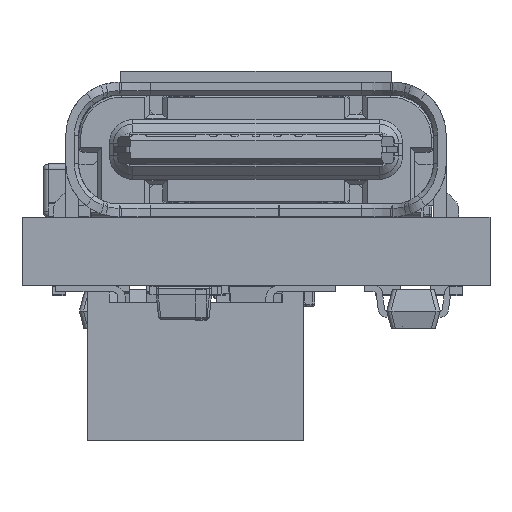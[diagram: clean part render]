
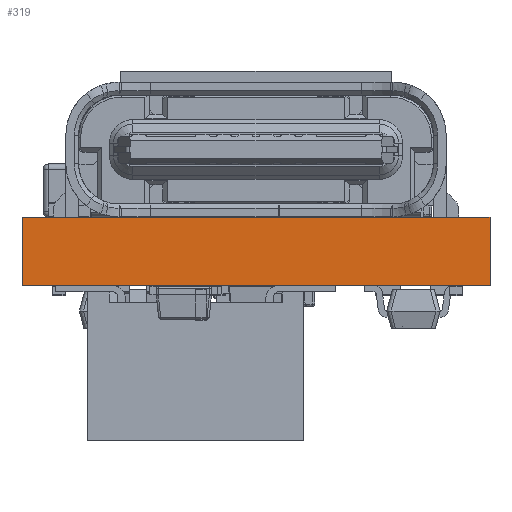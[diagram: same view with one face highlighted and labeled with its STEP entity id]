
A CAD part, left-side view. The second image highlights one B-rep face of the part: STEP entity #319.
In plain terms, the highlighted planar face has unit normal (-1, 0, 0).
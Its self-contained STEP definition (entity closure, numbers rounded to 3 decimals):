
#221 = EDGE_CURVE('',#222,#224,#226,.T.);
#222 = VERTEX_POINT('',#223);
#223 = CARTESIAN_POINT('',(0.,0.,0.));
#224 = VERTEX_POINT('',#225);
#225 = CARTESIAN_POINT('',(0.,0.,
    1.606));
#226 = LINE('',#227,#228);
#227 = CARTESIAN_POINT('',(0.,0.,0.));
#228 = VECTOR('',#229,1.);
#229 = DIRECTION('',(0.,0.,1.));
#294 = VERTEX_POINT('',#295);
#295 = CARTESIAN_POINT('',(0.,11.,1.606));
#301 = EDGE_CURVE('',#302,#294,#304,.T.);
#302 = VERTEX_POINT('',#303);
#303 = CARTESIAN_POINT('',(0.,11.,0.));
#304 = LINE('',#305,#306);
#305 = CARTESIAN_POINT('',(0.,11.,0.));
#306 = VECTOR('',#307,1.);
#307 = DIRECTION('',(0.,0.,1.));
#319 = ADVANCED_FACE('',(#320),#336,.F.);
#320 = FACE_BOUND('',#321,.F.);
#321 = EDGE_LOOP('',(#322,#323,#329,#330));
#322 = ORIENTED_EDGE('',*,*,#301,.T.);
#323 = ORIENTED_EDGE('',*,*,#324,.T.);
#324 = EDGE_CURVE('',#294,#224,#325,.T.);
#325 = LINE('',#326,#327);
#326 = CARTESIAN_POINT('',(0.,11.,1.606));
#327 = VECTOR('',#328,1.);
#328 = DIRECTION('',(0.,-1.,0.));
#329 = ORIENTED_EDGE('',*,*,#221,.F.);
#330 = ORIENTED_EDGE('',*,*,#331,.F.);
#331 = EDGE_CURVE('',#302,#222,#332,.T.);
#332 = LINE('',#333,#334);
#333 = CARTESIAN_POINT('',(0.,11.,0.));
#334 = VECTOR('',#335,1.);
#335 = DIRECTION('',(0.,-1.,0.));
#336 = PLANE('',#337);
#337 = AXIS2_PLACEMENT_3D('',#338,#339,#340);
#338 = CARTESIAN_POINT('',(0.,11.,0.));
#339 = DIRECTION('',(1.,0.,-0.));
#340 = DIRECTION('',(0.,-1.,0.));
